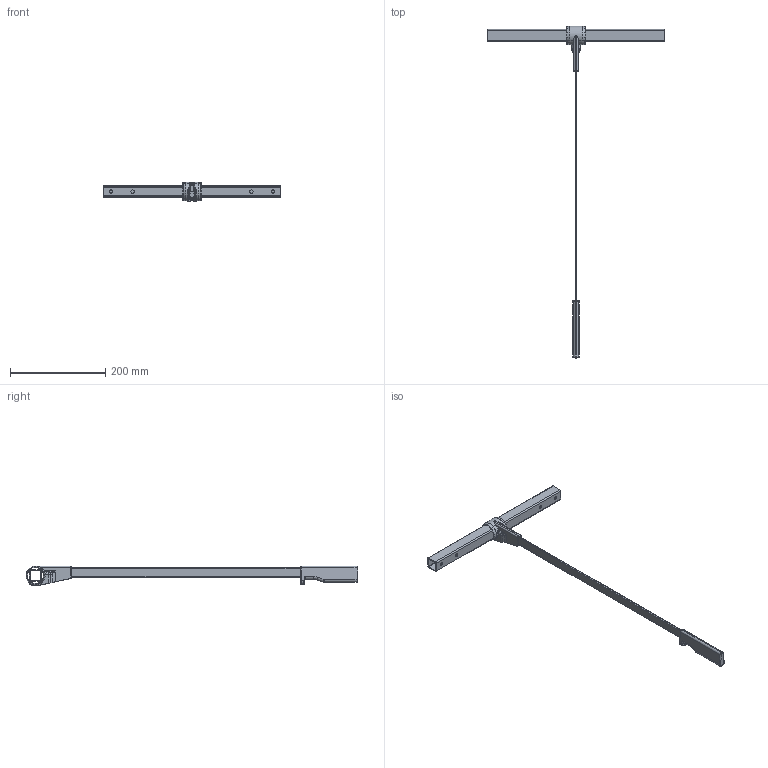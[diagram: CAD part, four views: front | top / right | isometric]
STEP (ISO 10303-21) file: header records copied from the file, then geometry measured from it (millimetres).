
FILE_DESCRIPTION((''),'2;1');
FILE_NAME('674367-370MM_SW0001','2023-02-06T14:32:45',('1ke04'),('Kesseboehmer'),'CREO PARAMETRIC BY PTC INC, 2020414','CREO PARAMETRIC BY PTC INC, 2020414','');
FILE_SCHEMA(('AUTOMOTIVE_DESIGN { 1 0 10303 214 1 1 1 1 }'));
Length unit declared in the file: millimetre
Products named in the file (1): 674367-370MM_SW0001
Bounding box: 370 x 697.84 x 41.7 mm (x, y, z)
Volume: 182562.5 mm3; surface area: 125925.6 mm2
Topology: 2 solids, 2 shells, 769 faces, 1962 edges, 1197 vertices
Faces by surface type: plane 285, cylinder 257, bspline 94, torus 87, cone 26, sphere 20
Entity records: 33722 total; most frequent: CARTESIAN_POINT 11823, ORIENTED_EDGE 3924, DIRECTION 3690, EDGE_CURVE 1962, AXIS2_PLACEMENT_3D 1361, VERTEX_POINT 1197, VECTOR 965, LINE 965
